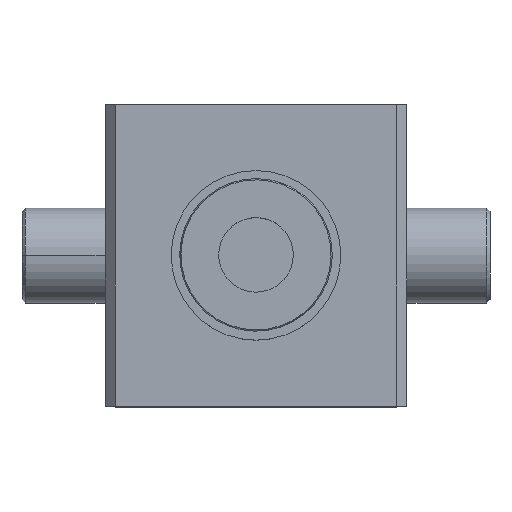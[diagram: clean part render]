
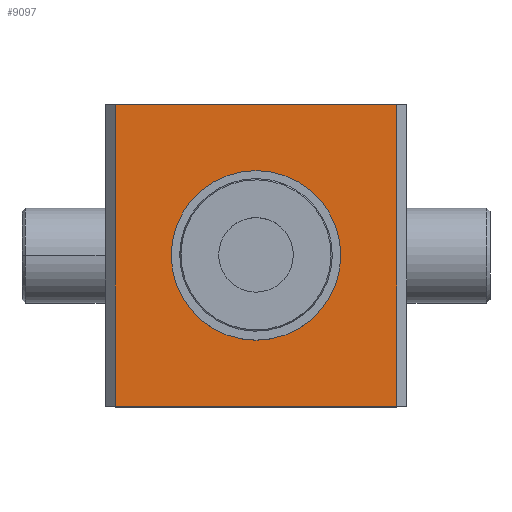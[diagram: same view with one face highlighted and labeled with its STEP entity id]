
A CAD part, top view. The second image highlights one B-rep face of the part: STEP entity #9097.
In plain terms, the highlighted planar face has unit normal (0, 0, 1).
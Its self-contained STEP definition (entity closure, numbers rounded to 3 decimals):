
#229 = DIRECTION ( 'NONE',  ( 0., 1., 0. ) ) ;
#544 = EDGE_CURVE ( 'NONE', #7786, #7493, #9958, .T. ) ;
#659 = PLANE ( 'NONE',  #18690 ) ;
#829 = AXIS2_PLACEMENT_3D ( 'NONE', #1707, #12492, #3191 ) ;
#1212 = CARTESIAN_POINT ( 'NONE',  ( -44.5, -44.5, 37. ) ) ;
#1707 = CARTESIAN_POINT ( 'NONE',  ( 0., 0., 37. ) ) ;
#1724 = DIRECTION ( 'NONE',  ( 1., 0., 0. ) ) ;
#2073 = CARTESIAN_POINT ( 'NONE',  ( 0., 0., 37. ) ) ;
#2135 = DIRECTION ( 'NONE',  ( 0., 0., 1. ) ) ;
#2366 = LINE ( 'NONE', #17071, #10105 ) ;
#2372 = CARTESIAN_POINT ( 'NONE',  ( -41.5, -44.5, 37. ) ) ;
#2472 = ORIENTED_EDGE ( 'NONE', *, *, #2885, .T. ) ;
#2791 = CARTESIAN_POINT ( 'NONE',  ( 25., 0., 37. ) ) ;
#2885 = EDGE_CURVE ( 'NONE', #9642, #7591, #19495, .T. ) ;
#3191 = DIRECTION ( 'NONE',  ( 1., 0., 0. ) ) ;
#3789 = EDGE_CURVE ( 'NONE', #3962, #9642, #14584, .T. ) ;
#3962 = VERTEX_POINT ( 'NONE', #11162 ) ;
#4560 = FACE_BOUND ( 'NONE', #8226, .T. ) ;
#4654 = CARTESIAN_POINT ( 'NONE',  ( 41.5, 44.5, 37. ) ) ;
#5056 = ORIENTED_EDGE ( 'NONE', *, *, #544, .F. ) ;
#5876 = ORIENTED_EDGE ( 'NONE', *, *, #14694, .T. ) ;
#6199 = CARTESIAN_POINT ( 'NONE',  ( 41.5, -44.5, 37. ) ) ;
#7341 = ORIENTED_EDGE ( 'NONE', *, *, #3789, .T. ) ;
#7493 = VERTEX_POINT ( 'NONE', #9246 ) ;
#7591 = VERTEX_POINT ( 'NONE', #6199 ) ;
#7786 = VERTEX_POINT ( 'NONE', #2791 ) ;
#7843 = DIRECTION ( 'NONE',  ( -1., 0., 0. ) ) ;
#8185 = CIRCLE ( 'NONE', #829, 25. ) ;
#8226 = EDGE_LOOP ( 'NONE', ( #17612, #5056 ) ) ;
#8706 = FACE_OUTER_BOUND ( 'NONE', #15010, .T. ) ;
#9097 = ADVANCED_FACE ( 'NONE', ( #8706, #4560 ), #659, .T. ) ;
#9246 = CARTESIAN_POINT ( 'NONE',  ( -25., 0., 37. ) ) ;
#9642 = VERTEX_POINT ( 'NONE', #2372 ) ;
#9887 = EDGE_CURVE ( 'NONE', #7493, #7786, #8185, .T. ) ;
#9958 = CIRCLE ( 'NONE', #16837, 25. ) ;
#10105 = VECTOR ( 'NONE', #7843, 1000. ) ;
#10586 = LINE ( 'NONE', #4654, #18188 ) ;
#11162 = CARTESIAN_POINT ( 'NONE',  ( -41.5, 44.5, 37. ) ) ;
#12153 = ORIENTED_EDGE ( 'NONE', *, *, #14670, .T. ) ;
#12246 = VERTEX_POINT ( 'NONE', #15552 ) ;
#12492 = DIRECTION ( 'NONE',  ( 0., 0., 1. ) ) ;
#12937 = DIRECTION ( 'NONE',  ( 1., 0., 0. ) ) ;
#14584 = LINE ( 'NONE', #17013, #18555 ) ;
#14670 = EDGE_CURVE ( 'NONE', #7591, #12246, #10586, .T. ) ;
#14694 = EDGE_CURVE ( 'NONE', #12246, #3962, #2366, .T. ) ;
#15010 = EDGE_LOOP ( 'NONE', ( #5876, #7341, #2472, #12153 ) ) ;
#15552 = CARTESIAN_POINT ( 'NONE',  ( 41.5, 44.5, 37. ) ) ;
#16414 = DIRECTION ( 'NONE',  ( 0., -1., 0. ) ) ;
#16837 = AXIS2_PLACEMENT_3D ( 'NONE', #17643, #17625, #17606 ) ;
#17013 = CARTESIAN_POINT ( 'NONE',  ( -41.5, -44.5, 37. ) ) ;
#17071 = CARTESIAN_POINT ( 'NONE',  ( -44.5, 44.5, 37. ) ) ;
#17606 = DIRECTION ( 'NONE',  ( 1., 0., 0. ) ) ;
#17612 = ORIENTED_EDGE ( 'NONE', *, *, #9887, .F. ) ;
#17625 = DIRECTION ( 'NONE',  ( 0., 0., 1. ) ) ;
#17643 = CARTESIAN_POINT ( 'NONE',  ( 0., 0., 37. ) ) ;
#18188 = VECTOR ( 'NONE', #229, 1000. ) ;
#18555 = VECTOR ( 'NONE', #16414, 1000. ) ;
#18690 = AXIS2_PLACEMENT_3D ( 'NONE', #2073, #2135, #12937 ) ;
#19035 = VECTOR ( 'NONE', #1724, 1000. ) ;
#19495 = LINE ( 'NONE', #1212, #19035 ) ;
